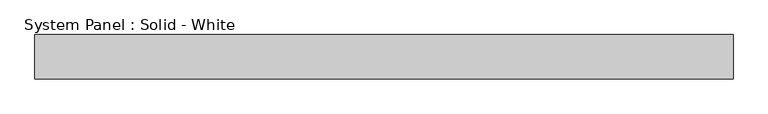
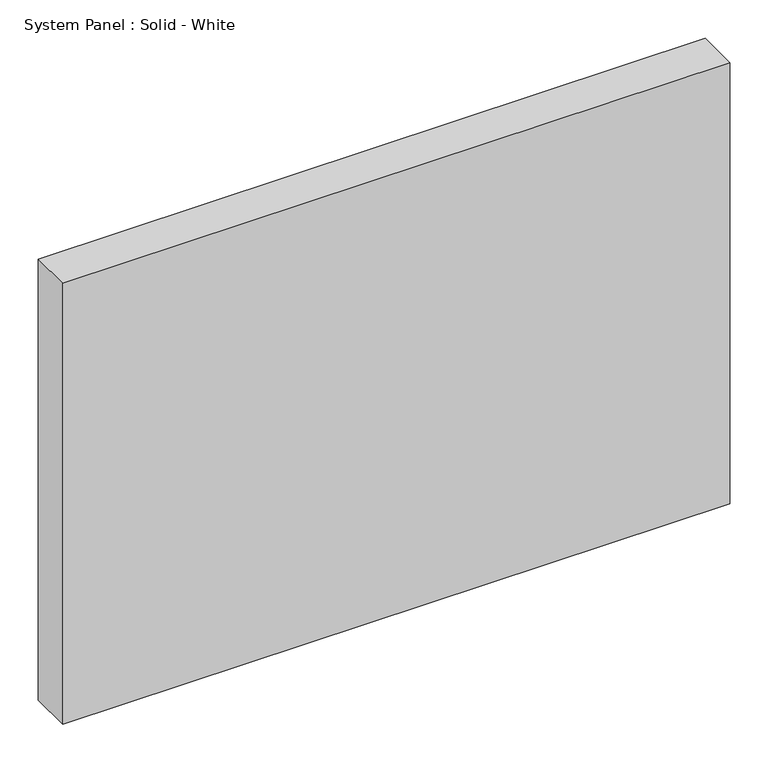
"""IFC4 building model written with IfcOpenShell, lengths in millimetres: plate geometry, System Panel : Solid - White."""

from ifc_helpers import new_model, si_unit, origin, origin_with_axes, place, context, project, spatial, polyline, outline, extrude, source, transform, mapped, element, save


def system_panel_solid_white_ec30824c(model_context):
    return source(origin(), model_context, "Body", "SweptSolid", [
        extrude(outline(polyline([(502.1791667, -19.05), (-502.1791667, -19.05), (-502.1791667, 44.45), (502.1791667, 44.45), (502.1791667, -19.05)])), origin_with_axes(), (0.0, 0.0, 1.0), 702.2026365),
    ])


if __name__ == "__main__":
    model = new_model("IFC4")
    model_context = context("Model", 3, world=origin())
    ifc_project = project(units=[si_unit("LENGTHUNIT", "METRE", prefix="MILLI")], contexts=[model_context])
    site = spatial("IfcSite", under=ifc_project)
    building = spatial("IfcBuilding", under=site)
    placement = place(None, origin())
    system_panel_solid_white_shape = system_panel_solid_white_ec30824c(model_context)
    element("IfcPlate", 1, ObjectType="System Panel : Solid - White", at=placement, inside=building, context=model_context, shape_type="MappedRepresentation", body=[
        mapped(system_panel_solid_white_shape, transform((0.0, 0.0, 0.0), x_axis=(1.0, 0.0, 0.0), y_axis=(0.0, 1.0, 0.0), z_axis=(0.0, 0.0, 1.0))),
    ])
    save(model, "model.ifc")
